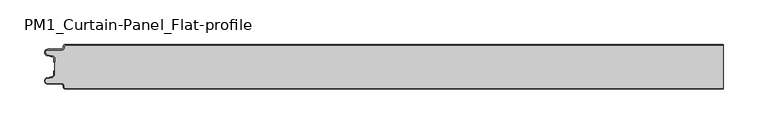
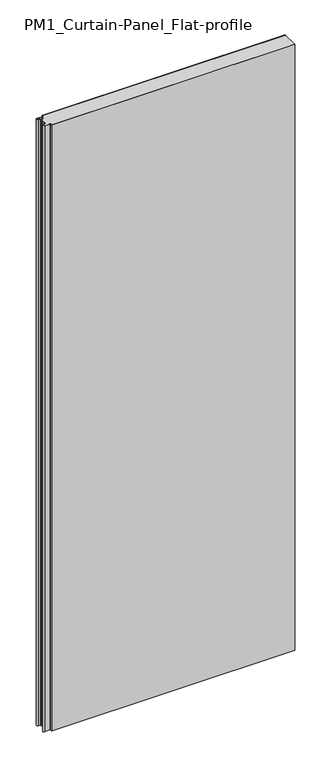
"""IFC4 building model written with IfcOpenShell, lengths in millimetres: plate geometry, PM1_Curtain-Panel_Flat-profile : ACH_PM1_Stone-wool-Panel_50M."""

from ifc_helpers import new_model, si_unit, point, frame_2d, origin, origin_with_axes, place, context, project, spatial, polyline, circle_curve, trimmed, segment, composite_curve, outline, extrude, source, transform, mapped, element, save


def pm1_curtain_panel_flat_profile_43c2f4df(model_context):
    return source(origin(), model_context, "Body", "SweptSolid", [
        extrude(outline(composite_curve([segment(trimmed(circle_curve(frame_2d((-362.4119739, -2.0)), 1.2), [point((-362.4119739, -0.8))], [point((-363.6119739, -2.0))], True, "CARTESIAN"), True, "CONTINUOUS"), segment(polyline([(-363.6119739, -2.0), (-363.6119739, -3.4)]), True, "CONTINUOUS"), segment(trimmed(circle_curve(frame_2d((-366.4119739, -3.4)), 2.8), [point((-363.6119739, -3.4))], [point((-366.4119739, -6.2))], False, "CARTESIAN"), True, "CONTINUOUS"), segment(polyline([(-366.4119739, -6.2), (-381.9119739, -6.2)]), True, "CONTINUOUS"), segment(trimmed(circle_curve(frame_2d((-381.9119739, -9.0)), 2.8), [point((-381.9119739, -6.2))], [point((-382.541837, -11.7282362))], True, "CARTESIAN"), True, "CONTINUOUS"), segment(polyline([(-382.541837, -11.7282362), (-376.3821109, -13.150321)]), True, "CONTINUOUS"), segment(trimmed(circle_curve(frame_2d((-377.0119739, -15.878557)), 2.8), [point((-376.3821109, -13.150321))], [point((-374.2119739, -15.878557))], False, "CARTESIAN"), True, "CONTINUOUS"), segment(polyline([(-374.2119739, -15.878557), (-374.2119739, -20.0), (-375.0119739, -20.0), (-375.0119739, -15.878557)]), True, "CONTINUOUS"), segment(trimmed(circle_curve(frame_2d((-377.0119739, -15.878557)), 2.0), [point((-375.0119739, -15.878557))], [point((-376.5620718, -13.9298169))], True, "CARTESIAN"), True, "CONTINUOUS"), segment(polyline([(-376.5620718, -13.9298169), (-382.7217978, -12.507732)]), True, "CONTINUOUS"), segment(trimmed(circle_curve(frame_2d((-381.9119739, -9.0)), 3.6), [point((-382.7217978, -12.507732))], [point((-381.9119739, -5.4))], False, "CARTESIAN"), True, "CONTINUOUS"), segment(polyline([(-381.9119739, -5.4), (-366.4119739, -5.4)]), True, "CONTINUOUS"), segment(trimmed(circle_curve(frame_2d((-366.4119739, -3.4)), 2.0), [point((-366.4119739, -5.4))], [point((-364.4119739, -3.4))], True, "CARTESIAN"), True, "CONTINUOUS"), segment(polyline([(-364.4119739, -3.4), (-364.4119739, -2.0)]), True, "CONTINUOUS"), segment(trimmed(circle_curve(frame_2d((-362.4119739, -2.0)), 2.0), [point((-364.4119739, -2.0))], [point((-362.4119739, 0.0))], False, "CARTESIAN"), True, "CONTINUOUS"), segment(polyline([(-362.4119739, 0.0), (375.0119739, 0.0), (375.0119739, -0.8), (-362.4119739, -0.8)]), True, "CONTINUOUS")], self_intersect=False)), origin_with_axes(), (0.0, 0.0, 1.0), 1945.7507136),
        extrude(outline(composite_curve([segment(polyline([(-374.2119739, -34.1214426), (-374.2119739, -15.8785573)]), True, "CONTINUOUS"), segment(trimmed(circle_curve(frame_2d((-377.0119739, -15.8785573)), 2.8), [point((-374.2119739, -15.8785573))], [point((-376.3821109, -13.1503212))], True, "CARTESIAN"), True, "CONTINUOUS"), segment(polyline([(-376.3821109, -13.1503212), (-382.541837, -11.7282362)]), True, "CONTINUOUS"), segment(trimmed(circle_curve(frame_2d((-381.911974, -9.0)), 2.8), [point((-382.541837, -11.7282362))], [point((-381.911974, -6.2))], False, "CARTESIAN"), True, "CONTINUOUS"), segment(polyline([(-381.911974, -6.2), (-366.411974, -6.2)]), True, "CONTINUOUS"), segment(trimmed(circle_curve(frame_2d((-366.411974, -3.4)), 2.8), [point((-366.411974, -6.2))], [point((-363.611974, -3.4))], True, "CARTESIAN"), True, "CONTINUOUS"), segment(polyline([(-363.611974, -3.4), (-363.611974, -2.0)]), True, "CONTINUOUS"), segment(trimmed(circle_curve(frame_2d((-362.411974, -2.0)), 1.2), [point((-363.611974, -2.0))], [point((-362.411974, -0.8))], False, "CARTESIAN"), True, "CONTINUOUS"), segment(polyline([(-362.411974, -0.8), (375.0119739, -0.8), (375.0119739, -49.2), (-362.411974, -49.2)]), True, "CONTINUOUS"), segment(trimmed(circle_curve(frame_2d((-362.411974, -48.0)), 1.2), [point((-362.411974, -49.2))], [point((-363.611974, -48.0))], False, "CARTESIAN"), True, "CONTINUOUS"), segment(polyline([(-363.611974, -48.0), (-363.611974, -46.6)]), True, "CONTINUOUS"), segment(trimmed(circle_curve(frame_2d((-366.411974, -46.6)), 2.8), [point((-363.611974, -46.6))], [point((-366.411974, -43.8))], True, "CARTESIAN"), True, "CONTINUOUS"), segment(polyline([(-366.411974, -43.8), (-381.911974, -43.8)]), True, "CONTINUOUS"), segment(trimmed(circle_curve(frame_2d((-381.911974, -41.0)), 2.8), [point((-381.911974, -43.8))], [point((-382.541837, -38.2717638))], False, "CARTESIAN"), True, "CONTINUOUS"), segment(polyline([(-382.541837, -38.2717638), (-376.3821109, -36.8496788)]), True, "CONTINUOUS"), segment(trimmed(circle_curve(frame_2d((-377.0119739, -34.1214426)), 2.8), [point((-376.3821109, -36.8496788))], [point((-374.2119739, -34.1214426))], True, "CARTESIAN"), True, "CONTINUOUS")], self_intersect=False)), origin_with_axes(), (0.0, 0.0, 1.0), 1945.7507136),
        extrude(outline(composite_curve([segment(trimmed(circle_curve(frame_2d((-362.4119739, -48.0)), 2.0), [point((-362.4119739, -50.0))], [point((-364.4119739, -48.0))], False, "CARTESIAN"), True, "CONTINUOUS"), segment(polyline([(-364.4119739, -48.0), (-364.4119739, -46.6)]), True, "CONTINUOUS"), segment(trimmed(circle_curve(frame_2d((-366.4119739, -46.6)), 2.0), [point((-364.4119739, -46.6))], [point((-366.4119739, -44.6))], True, "CARTESIAN"), True, "CONTINUOUS"), segment(polyline([(-366.4119739, -44.6), (-381.9119739, -44.6)]), True, "CONTINUOUS"), segment(trimmed(circle_curve(frame_2d((-381.9119739, -41.0)), 3.6), [point((-381.9119739, -44.6))], [point((-382.7217979, -37.4922678))], False, "CARTESIAN"), True, "CONTINUOUS"), segment(polyline([(-382.7217979, -37.4922678), (-376.5620718, -36.070183)]), True, "CONTINUOUS"), segment(trimmed(circle_curve(frame_2d((-377.0119739, -34.121443)), 2.0), [point((-376.5620718, -36.070183))], [point((-375.0119739, -34.121443))], True, "CARTESIAN"), True, "CONTINUOUS"), segment(polyline([(-375.0119739, -34.121443), (-375.0119739, -30.0), (-374.2119739, -30.0), (-374.2119739, -34.121443)]), True, "CONTINUOUS"), segment(trimmed(circle_curve(frame_2d((-377.0119739, -34.121443)), 2.8), [point((-374.2119739, -34.121443))], [point((-376.3821109, -36.8496792))], False, "CARTESIAN"), True, "CONTINUOUS"), segment(polyline([(-376.3821109, -36.8496792), (-382.5418369, -38.271764)]), True, "CONTINUOUS"), segment(trimmed(circle_curve(frame_2d((-381.9119739, -41.0)), 2.8), [point((-382.5418369, -38.271764))], [point((-381.9119739, -43.8))], True, "CARTESIAN"), True, "CONTINUOUS"), segment(polyline([(-381.9119739, -43.8), (-366.4119739, -43.8)]), True, "CONTINUOUS"), segment(trimmed(circle_curve(frame_2d((-366.4119739, -46.6)), 2.8), [point((-366.4119739, -43.8))], [point((-363.6119739, -46.6))], False, "CARTESIAN"), True, "CONTINUOUS"), segment(polyline([(-363.6119739, -46.6), (-363.6119739, -48.0)]), True, "CONTINUOUS"), segment(trimmed(circle_curve(frame_2d((-362.4119739, -48.0)), 1.2), [point((-363.6119739, -48.0))], [point((-362.4119739, -49.2))], True, "CARTESIAN"), True, "CONTINUOUS"), segment(polyline([(-362.4119739, -49.2), (375.0119739, -49.2), (375.0119739, -50.0), (-362.4119739, -50.0)]), True, "CONTINUOUS")], self_intersect=False)), origin_with_axes(), (0.0, 0.0, 1.0), 1945.7507136),
    ])


if __name__ == "__main__":
    model = new_model("IFC4")
    model_context = context("Model", 3, world=origin())
    ifc_project = project(units=[si_unit("LENGTHUNIT", "METRE", prefix="MILLI")], contexts=[model_context])
    site = spatial("IfcSite", under=ifc_project)
    building = spatial("IfcBuilding", under=site)
    placement = place(None, origin())
    pm1_curtain_panel_flat_profile_shape = pm1_curtain_panel_flat_profile_43c2f4df(model_context)
    element("IfcPlate", 1, ObjectType="PM1_Curtain-Panel_Flat-profile : ACH_PM1_Stone-wool-Panel_50M", at=placement, inside=building, context=model_context, shape_type="MappedRepresentation", body=[
        mapped(pm1_curtain_panel_flat_profile_shape, transform((0.0, 0.0, 0.0), x_axis=(1.0, 0.0, 0.0), y_axis=(0.0, 1.0, 0.0), z_axis=(0.0, 0.0, 1.0))),
    ])
    save(model, "model.ifc")
